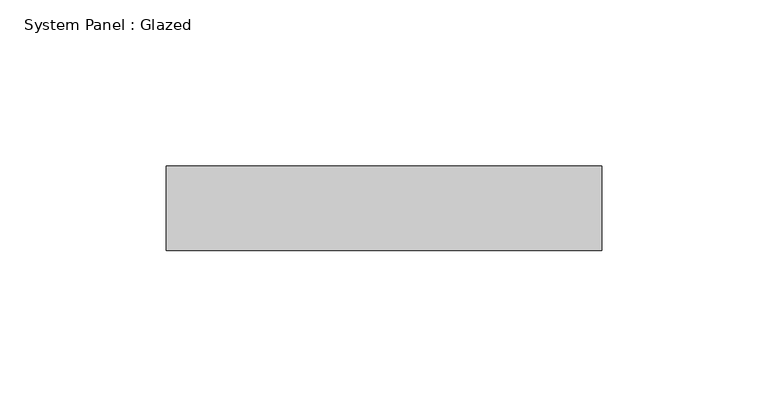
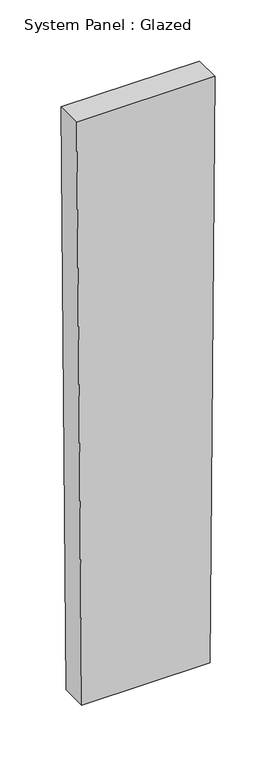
"""IFC4 building model written with IfcOpenShell, lengths in millimetres: plate geometry, System Panel : Glazed."""

from ifc_helpers import new_model, si_unit, frame, origin, place, context, project, spatial, polyline, outline, extrude, source, transform, mapped, element, save


def system_panel_glazed_d8ad03ad(model_context):
    return source(origin(), model_context, "Body", "SweptSolid", [
        extrude(outline(polyline([(0.0, -60.6113935), (0.0, 60.6113935), (584.1783109, 65.5393872), (584.1783109, -65.5393872), (0.0, -60.6113935)])), frame((0.0, 19.05, 0.0), z_axis=(0.0, 1.0, 0.0), x_axis=(0.0, 0.0, 1.0)), (0.0, 0.0, 1.0), 25.4),
    ])


if __name__ == "__main__":
    model = new_model("IFC4")
    model_context = context("Model", 3, world=origin())
    ifc_project = project(units=[si_unit("LENGTHUNIT", "METRE", prefix="MILLI")], contexts=[model_context])
    site = spatial("IfcSite", under=ifc_project)
    building = spatial("IfcBuilding", under=site)
    placement = place(None, origin())
    system_panel_glazed_shape = system_panel_glazed_d8ad03ad(model_context)
    element("IfcPlate", 1, ObjectType="System Panel : Glazed", at=placement, inside=building, context=model_context, shape_type="MappedRepresentation", body=[
        mapped(system_panel_glazed_shape, transform((0.0, 0.0, 0.0), x_axis=(1.0, 0.0, 0.0), y_axis=(0.0, 1.0, 0.0), z_axis=(0.0, 0.0, 1.0))),
    ])
    save(model, "model.ifc")
